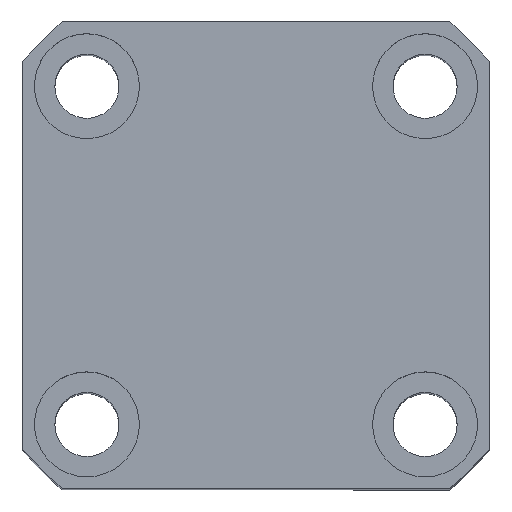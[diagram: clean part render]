
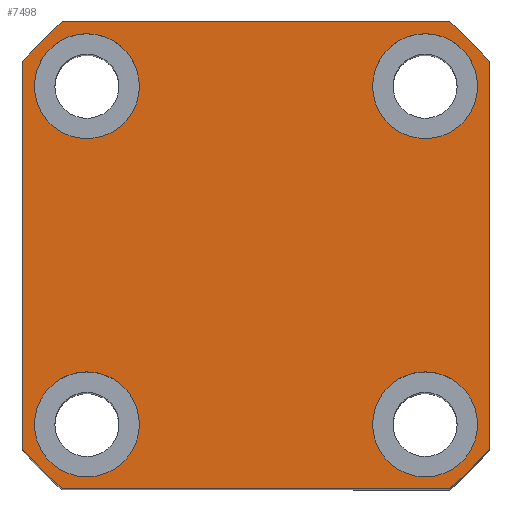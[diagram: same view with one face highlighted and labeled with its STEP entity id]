
A CAD part, top view. The second image highlights one B-rep face of the part: STEP entity #7498.
In plain terms, the highlighted planar face has unit normal (0, 0, 1).
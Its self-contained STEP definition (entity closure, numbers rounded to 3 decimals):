
#144 = CARTESIAN_POINT ( 'NONE',  ( 20., 29., 75. ) ) ;
#148 = ORIENTED_EDGE ( 'NONE', *, *, #8074, .F. ) ;
#172 = VERTEX_POINT ( 'NONE', #8355 ) ;
#182 = CARTESIAN_POINT ( 'NONE',  ( 38., 29., 75. ) ) ;
#209 = DIRECTION ( 'NONE',  ( 0., 0., 1. ) ) ;
#232 = DIRECTION ( 'NONE',  ( 0., 0., 1. ) ) ;
#248 = AXIS2_PLACEMENT_3D ( 'NONE', #12032, #13169, #4131 ) ;
#281 = VERTEX_POINT ( 'NONE', #10719 ) ;
#609 = CARTESIAN_POINT ( 'NONE',  ( -29., 29., 75. ) ) ;
#884 = DIRECTION ( 'NONE',  ( 1., 0., 0. ) ) ;
#923 = EDGE_CURVE ( 'NONE', #12454, #9629, #12803, .T. ) ;
#1032 = EDGE_CURVE ( 'NONE', #5911, #7853, #7076, .T. ) ;
#1072 = DIRECTION ( 'NONE',  ( 0., 0., 1. ) ) ;
#1389 = DIRECTION ( 'NONE',  ( 1., 0., 0. ) ) ;
#1709 = DIRECTION ( 'NONE',  ( 1., 0., 0. ) ) ;
#1745 = CIRCLE ( 'NONE', #14287, 52. ) ;
#1956 = CIRCLE ( 'NONE', #11073, 9. ) ;
#2076 = DIRECTION ( 'NONE',  ( 0., 0., 1. ) ) ;
#2284 = EDGE_CURVE ( 'NONE', #9629, #14011, #12073, .T. ) ;
#2298 = EDGE_LOOP ( 'NONE', ( #6617, #9100, #8887, #11060, #11313, #11965, #10819, #12821 ) ) ;
#2303 = AXIS2_PLACEMENT_3D ( 'NONE', #6463, #2076, #884 ) ;
#2321 = FACE_BOUND ( 'NONE', #12545, .T. ) ;
#2468 = AXIS2_PLACEMENT_3D ( 'NONE', #6287, #13132, #14514 ) ;
#2507 = VERTEX_POINT ( 'NONE', #10406 ) ;
#2670 = ORIENTED_EDGE ( 'NONE', *, *, #7574, .F. ) ;
#2688 = FACE_OUTER_BOUND ( 'NONE', #2298, .T. ) ;
#2736 = CARTESIAN_POINT ( 'NONE',  ( -20., 29., 75. ) ) ;
#3146 = EDGE_CURVE ( 'NONE', #10906, #7310, #8302, .T. ) ;
#3561 = VERTEX_POINT ( 'NONE', #182 ) ;
#3806 = EDGE_CURVE ( 'NONE', #172, #13158, #8828, .T. ) ;
#3901 = CARTESIAN_POINT ( 'NONE',  ( 40., -33.226, 75. ) ) ;
#3955 = ORIENTED_EDGE ( 'NONE', *, *, #7691, .F. ) ;
#4131 = DIRECTION ( 'NONE',  ( 1., 0., 0. ) ) ;
#4187 = EDGE_CURVE ( 'NONE', #2507, #5911, #14699, .T. ) ;
#4438 = CARTESIAN_POINT ( 'NONE',  ( -40., 33.226, 75. ) ) ;
#4494 = DIRECTION ( 'NONE',  ( 0., -1., 0. ) ) ;
#4667 = DIRECTION ( 'NONE',  ( 1., 0., 0. ) ) ;
#4714 = CARTESIAN_POINT ( 'NONE',  ( 29., 29., 75. ) ) ;
#4777 = CARTESIAN_POINT ( 'NONE',  ( 40., 33.226, 75. ) ) ;
#4790 = CIRCLE ( 'NONE', #2303, 9. ) ;
#4865 = EDGE_CURVE ( 'NONE', #7853, #13948, #11678, .T. ) ;
#5086 = AXIS2_PLACEMENT_3D ( 'NONE', #609, #209, #5172 ) ;
#5172 = DIRECTION ( 'NONE',  ( 1., 0., 0. ) ) ;
#5186 = CIRCLE ( 'NONE', #2468, 52. ) ;
#5221 = CARTESIAN_POINT ( 'NONE',  ( 33.226, -40., 75. ) ) ;
#5509 = DIRECTION ( 'NONE',  ( 1., 0., 0. ) ) ;
#5542 = CIRCLE ( 'NONE', #8266, 9. ) ;
#5612 = EDGE_CURVE ( 'NONE', #7310, #10906, #13092, .T. ) ;
#5697 = VERTEX_POINT ( 'NONE', #13251 ) ;
#5911 = VERTEX_POINT ( 'NONE', #5221 ) ;
#6006 = CARTESIAN_POINT ( 'NONE',  ( -33.226, 40., 75. ) ) ;
#6130 = DIRECTION ( 'NONE',  ( 0., 0., 1. ) ) ;
#6191 = CARTESIAN_POINT ( 'NONE',  ( -20., -29., 75. ) ) ;
#6287 = CARTESIAN_POINT ( 'NONE',  ( 0., 0., 75. ) ) ;
#6295 = ORIENTED_EDGE ( 'NONE', *, *, #3806, .F. ) ;
#6440 = CARTESIAN_POINT ( 'NONE',  ( -40., 33.226, 75. ) ) ;
#6463 = CARTESIAN_POINT ( 'NONE',  ( 29., -29., 75. ) ) ;
#6590 = CARTESIAN_POINT ( 'NONE',  ( -29., -29., 75. ) ) ;
#6617 = ORIENTED_EDGE ( 'NONE', *, *, #923, .T. ) ;
#6793 = CARTESIAN_POINT ( 'NONE',  ( 0., 0., 75. ) ) ;
#6859 = EDGE_CURVE ( 'NONE', #14011, #2507, #5186, .T. ) ;
#7007 = CARTESIAN_POINT ( 'NONE',  ( 29., 29., 75. ) ) ;
#7076 = CIRCLE ( 'NONE', #248, 52. ) ;
#7153 = CARTESIAN_POINT ( 'NONE',  ( 38., -29., 75. ) ) ;
#7310 = VERTEX_POINT ( 'NONE', #2736 ) ;
#7498 = ADVANCED_FACE ( 'NONE', ( #2321, #12473, #10328, #10510, #2688 ), #14528, .T. ) ;
#7574 = EDGE_CURVE ( 'NONE', #11620, #281, #13695, .T. ) ;
#7648 = VERTEX_POINT ( 'NONE', #144 ) ;
#7691 = EDGE_CURVE ( 'NONE', #7648, #3561, #1956, .T. ) ;
#7844 = EDGE_LOOP ( 'NONE', ( #148, #3955 ) ) ;
#7853 = VERTEX_POINT ( 'NONE', #3901 ) ;
#7894 = CARTESIAN_POINT ( 'NONE',  ( -38., 29., 75. ) ) ;
#8074 = EDGE_CURVE ( 'NONE', #3561, #7648, #5542, .T. ) ;
#8169 = DIRECTION ( 'NONE',  ( 0., 0., 1. ) ) ;
#8266 = AXIS2_PLACEMENT_3D ( 'NONE', #7007, #232, #1389 ) ;
#8302 = CIRCLE ( 'NONE', #9532, 9. ) ;
#8355 = CARTESIAN_POINT ( 'NONE',  ( 20., -29., 75. ) ) ;
#8508 = CARTESIAN_POINT ( 'NONE',  ( -33.226, 40., 75. ) ) ;
#8552 = EDGE_CURVE ( 'NONE', #13158, #172, #4790, .T. ) ;
#8652 = AXIS2_PLACEMENT_3D ( 'NONE', #11105, #8983, #11299 ) ;
#8656 = EDGE_CURVE ( 'NONE', #13948, #5697, #1745, .T. ) ;
#8828 = CIRCLE ( 'NONE', #8652, 9. ) ;
#8887 = ORIENTED_EDGE ( 'NONE', *, *, #6859, .T. ) ;
#8983 = DIRECTION ( 'NONE',  ( 0., 0., 1. ) ) ;
#8984 = DIRECTION ( 'NONE',  ( 1., 0., 0. ) ) ;
#9100 = ORIENTED_EDGE ( 'NONE', *, *, #2284, .T. ) ;
#9532 = AXIS2_PLACEMENT_3D ( 'NONE', #10577, #8169, #10624 ) ;
#9629 = VERTEX_POINT ( 'NONE', #6440 ) ;
#9708 = DIRECTION ( 'NONE',  ( 0., 1., 0. ) ) ;
#10027 = DIRECTION ( 'NONE',  ( 0., 0., 1. ) ) ;
#10294 = CARTESIAN_POINT ( 'NONE',  ( 0., 0., 75. ) ) ;
#10328 = FACE_BOUND ( 'NONE', #12851, .T. ) ;
#10406 = CARTESIAN_POINT ( 'NONE',  ( -33.226, -40., 75. ) ) ;
#10510 = FACE_BOUND ( 'NONE', #7844, .T. ) ;
#10577 = CARTESIAN_POINT ( 'NONE',  ( -29., 29., 75. ) ) ;
#10624 = DIRECTION ( 'NONE',  ( 1., 0., 0. ) ) ;
#10719 = CARTESIAN_POINT ( 'NONE',  ( -38., -29., 75. ) ) ;
#10819 = ORIENTED_EDGE ( 'NONE', *, *, #8656, .T. ) ;
#10906 = VERTEX_POINT ( 'NONE', #7894 ) ;
#11014 = VECTOR ( 'NONE', #4494, 1000. ) ;
#11060 = ORIENTED_EDGE ( 'NONE', *, *, #4187, .T. ) ;
#11064 = VECTOR ( 'NONE', #11629, 1000. ) ;
#11073 = AXIS2_PLACEMENT_3D ( 'NONE', #4714, #11478, #4667 ) ;
#11076 = CIRCLE ( 'NONE', #13500, 9. ) ;
#11098 = CARTESIAN_POINT ( 'NONE',  ( -29., -29., 75. ) ) ;
#11105 = CARTESIAN_POINT ( 'NONE',  ( 29., -29., 75. ) ) ;
#11144 = DIRECTION ( 'NONE',  ( 1., 0., 0. ) ) ;
#11165 = VECTOR ( 'NONE', #9708, 1000. ) ;
#11255 = AXIS2_PLACEMENT_3D ( 'NONE', #12928, #6130, #12886 ) ;
#11272 = ORIENTED_EDGE ( 'NONE', *, *, #11945, .F. ) ;
#11299 = DIRECTION ( 'NONE',  ( 1., 0., 0. ) ) ;
#11313 = ORIENTED_EDGE ( 'NONE', *, *, #1032, .T. ) ;
#11348 = DIRECTION ( 'NONE',  ( 0., 0., 1. ) ) ;
#11478 = DIRECTION ( 'NONE',  ( 0., 0., 1. ) ) ;
#11620 = VERTEX_POINT ( 'NONE', #6191 ) ;
#11629 = DIRECTION ( 'NONE',  ( -1., 0., 0. ) ) ;
#11678 = LINE ( 'NONE', #14175, #11165 ) ;
#11690 = VECTOR ( 'NONE', #1709, 1000. ) ;
#11785 = ORIENTED_EDGE ( 'NONE', *, *, #5612, .F. ) ;
#11825 = CARTESIAN_POINT ( 'NONE',  ( -33.226, -40., 75. ) ) ;
#11945 = EDGE_CURVE ( 'NONE', #281, #11620, #11076, .T. ) ;
#11965 = ORIENTED_EDGE ( 'NONE', *, *, #4865, .T. ) ;
#12032 = CARTESIAN_POINT ( 'NONE',  ( 0., 0., 75. ) ) ;
#12073 = LINE ( 'NONE', #4438, #11014 ) ;
#12227 = DIRECTION ( 'NONE',  ( 0., 0., 1. ) ) ;
#12293 = EDGE_CURVE ( 'NONE', #5697, #12454, #14056, .T. ) ;
#12454 = VERTEX_POINT ( 'NONE', #8508 ) ;
#12473 = FACE_BOUND ( 'NONE', #13233, .T. ) ;
#12545 = EDGE_LOOP ( 'NONE', ( #14426, #6295 ) ) ;
#12582 = AXIS2_PLACEMENT_3D ( 'NONE', #6793, #1072, #5509 ) ;
#12803 = CIRCLE ( 'NONE', #11255, 52. ) ;
#12821 = ORIENTED_EDGE ( 'NONE', *, *, #12293, .T. ) ;
#12851 = EDGE_LOOP ( 'NONE', ( #11785, #14474 ) ) ;
#12886 = DIRECTION ( 'NONE',  ( 1., 0., 0. ) ) ;
#12928 = CARTESIAN_POINT ( 'NONE',  ( 0., 0., 75. ) ) ;
#13092 = CIRCLE ( 'NONE', #5086, 9. ) ;
#13132 = DIRECTION ( 'NONE',  ( 0., 0., 1. ) ) ;
#13158 = VERTEX_POINT ( 'NONE', #7153 ) ;
#13169 = DIRECTION ( 'NONE',  ( 0., 0., 1. ) ) ;
#13233 = EDGE_LOOP ( 'NONE', ( #2670, #11272 ) ) ;
#13251 = CARTESIAN_POINT ( 'NONE',  ( 33.226, 40., 75. ) ) ;
#13500 = AXIS2_PLACEMENT_3D ( 'NONE', #11098, #12227, #11144 ) ;
#13623 = AXIS2_PLACEMENT_3D ( 'NONE', #6590, #10027, #14679 ) ;
#13695 = CIRCLE ( 'NONE', #13623, 9. ) ;
#13844 = CARTESIAN_POINT ( 'NONE',  ( -40., -33.226, 75. ) ) ;
#13948 = VERTEX_POINT ( 'NONE', #4777 ) ;
#14011 = VERTEX_POINT ( 'NONE', #13844 ) ;
#14056 = LINE ( 'NONE', #6006, #11064 ) ;
#14175 = CARTESIAN_POINT ( 'NONE',  ( 40., 33.226, 75. ) ) ;
#14287 = AXIS2_PLACEMENT_3D ( 'NONE', #10294, #11348, #8984 ) ;
#14426 = ORIENTED_EDGE ( 'NONE', *, *, #8552, .F. ) ;
#14474 = ORIENTED_EDGE ( 'NONE', *, *, #3146, .F. ) ;
#14514 = DIRECTION ( 'NONE',  ( 1., 0., 0. ) ) ;
#14528 = PLANE ( 'NONE',  #12582 ) ;
#14679 = DIRECTION ( 'NONE',  ( 1., 0., 0. ) ) ;
#14699 = LINE ( 'NONE', #11825, #11690 ) ;
